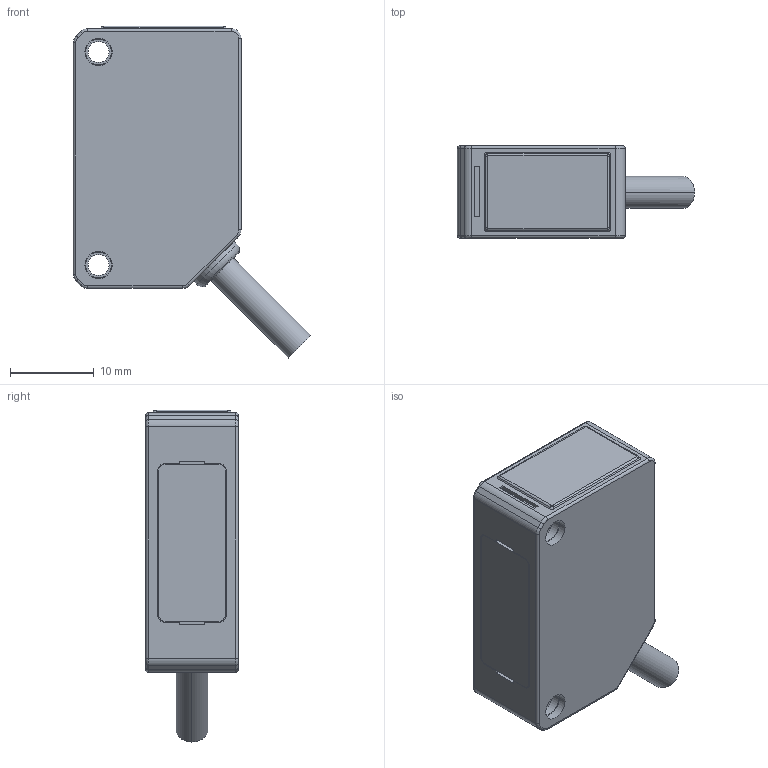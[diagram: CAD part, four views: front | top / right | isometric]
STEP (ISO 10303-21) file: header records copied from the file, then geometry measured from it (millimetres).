
FILE_DESCRIPTION(('CoCreate Modeling STEP Export'),'2;1');
FILE_NAME('Z4_Cable_Type_Thru-Beam_Emitter.stp','2019-10-04T14:28:23',(''),(''),'CoCreate Modeling STEP processor for AP214 (Solid Model)','CoCreate Modeling 16.50A 01-Dec-2009 (C) Parametric Technology GmbH','');
FILE_SCHEMA(('AUTOMOTIVE_DESIGN { 1 0 10303 214 1 1 1 1 }'));
Length unit declared in the file: millimetre
Products named in the file (2): Z3_Cable_Type_Thru-Beam_Emitter
Assembly tree (1 placements, depth 2):
  Z3_Cable_Type_Thru-Beam_Emitter
    Z3_Cable_Type_Thru-Beam_Emitter
Bounding box: 28.29 x 11 x 39.59 mm (x, y, z)
Volume: 6629.4 mm3; surface area: 2727.3 mm2
Topology: 1 solids, 1 shells, 147 faces, 346 edges, 214 vertices
Faces by surface type: cylinder 64, plane 55, torus 22, bspline 4, cone 2
Entity records: 4242 total; most frequent: CARTESIAN_POINT 890, DIRECTION 694, ORIENTED_EDGE 692, EDGE_CURVE 346, AXIS2_PLACEMENT_3D 254, VERTEX_POINT 214, VECTOR 186, LINE 186
